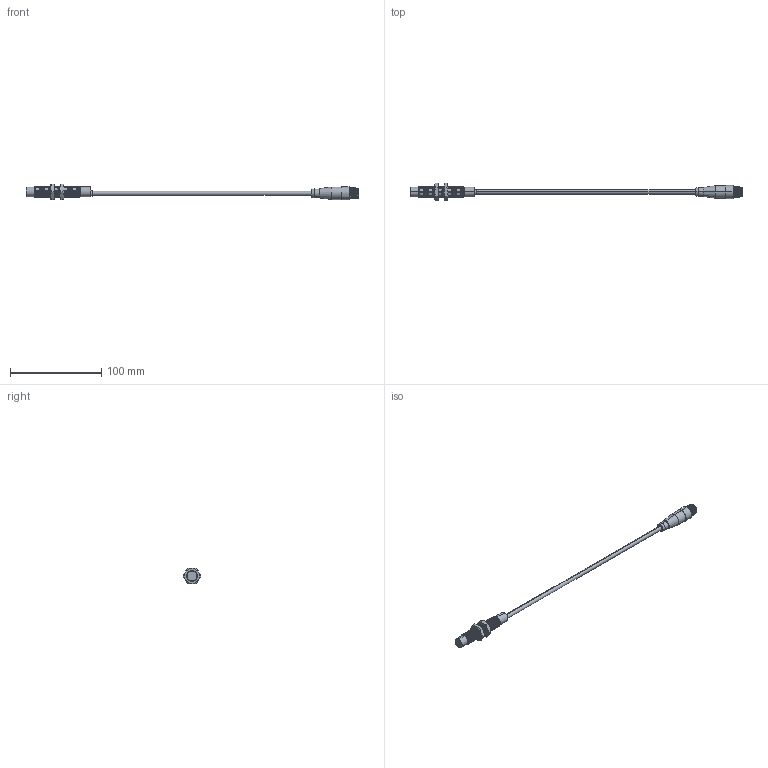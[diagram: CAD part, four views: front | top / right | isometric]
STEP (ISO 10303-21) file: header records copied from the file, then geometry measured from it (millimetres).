
FILE_DESCRIPTION (( 'STEP AP203' ), '1' );
FILE_NAME ('90-29356-004.STEP', '2015-09-11T13:26:00', ( 'Sam' ), ( 'Spade' ), 'SwSTEP 2.0', 'SolidWorks 2002296', '' );
FILE_SCHEMA (( 'CONFIG_CONTROL_DESIGN' ));
Length unit declared in the file: inch
Products named in the file (12): 90-29356-004; Imported24; Imported28; Imported27; Imported26; Imported25; Imported31; Imported30; Imported29; Imported34; Imported33; Imported32
Assembly tree (11 placements, depth 2):
  90-29356-004
    Imported34
    Imported26
    Imported24
    Imported31
    Imported29
    Imported33
    Imported28
    Imported30
    Imported27
    Imported25
    Imported32
Bounding box: 364.38 x 19.47 x 17.11 mm (x, y, z)
Volume: 18447.6 mm3; surface area: 13346.7 mm2
Topology: 11 solids, 11 shells, 508 faces, 1069 edges, 589 vertices
Faces by surface type: cone 300, cylinder 143, plane 49, bspline 16
Entity records: 15064 total; most frequent: CARTESIAN_POINT 2761, DIRECTION 2589, ORIENTED_EDGE 2126, AXIS2_PLACEMENT_3D 1070, EDGE_CURVE 1063, VERTEX_POINT 589, CIRCLE 564, EDGE_LOOP 526
